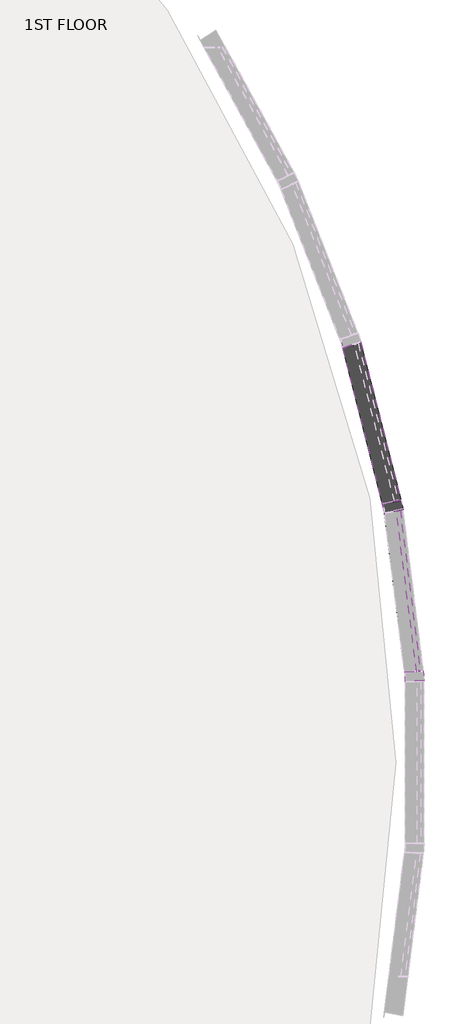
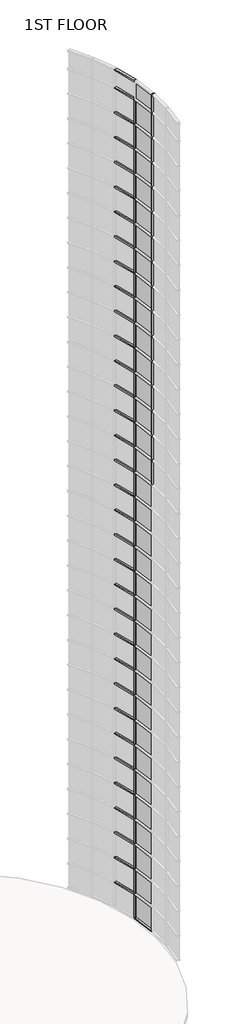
# One storey, part 16 of 17: 84 members, 34 plates.
"""IFC4 building model written with IfcOpenShell, lengths in millimetres."""

from ifc_helpers import new_model, si_unit, origin, place, context, project, spatial, transform, mapped, element, save
from components import member_56cb0dcd, member_0c249660, member_2b49869a, member_410c6227, system_panel_glazed_ce2914f7, system_panel_glazed_e049e42f, system_panel_glazed_5ae89cf9

model = new_model("IFC4")

# Units and contexts
model_context = context("Model", 3, world=origin())
ifc_project = project(units=[si_unit("LENGTHUNIT", "METRE", prefix="MILLI")], contexts=[model_context])

# Site, building, storey
site = spatial("IfcSite", under=ifc_project)
building = spatial("IfcBuilding", under=site)
storey = spatial("IfcBuildingStorey", under=building, Name="1ST FLOOR", Elevation=4572.0)

# Members
placement = place(None, origin())
member_shape = member_56cb0dcd(model_context)
element("IfcMember", 1, ObjectType="Rectangular Mullion : 2.5\" x 5\" rectangular", at=placement, inside=storey, context=model_context, shape_type="MappedRepresentation", body=[
    mapped(member_shape, transform((48103.1256282, 18683.2818022, 45720.0), x_axis=(0.0, 0.0, 1.0), y_axis=(-0.9689314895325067, -0.24732927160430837, 0.0), z_axis=(0.24732927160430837, -0.9689314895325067, 0.0))),
])
element("IfcMember", 2, ObjectType="Rectangular Mullion : 2.5\" x 5\" rectangular", at=placement, inside=storey, context=model_context, shape_type="MappedRepresentation", body=[
    mapped(member_shape, transform((48114.9355412, 18621.0157989, 4572.0), x_axis=(0.0, 0.0, -1.0), y_axis=(-0.9922024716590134, -0.1246364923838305, 0.0), z_axis=(-0.1246364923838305, 0.9922024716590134, 0.0))),
])
member_2_shape = member_0c249660(model_context)
element("IfcMember", 3, ObjectType="Rectangular Mullion : 2.5\" x 5\" rectangular", at=placement, inside=storey, context=model_context, shape_type="MappedRepresentation", body=[
    mapped(member_2_shape, transform((48103.1256282, 18683.2818022, 5791.2), x_axis=(0.0, 0.0, 1.0), y_axis=(-0.9689314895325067, -0.24732927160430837, 0.0), z_axis=(0.24732927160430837, -0.9689314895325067, 0.0))),
])
element("IfcMember", 4, ObjectType="Rectangular Mullion : 2.5\" x 5\" rectangular", at=placement, inside=storey, context=model_context, shape_type="MappedRepresentation", body=[
    mapped(member_2_shape, transform((48103.1256282, 18683.2818022, 7010.4), x_axis=(0.0, 0.0, 1.0), y_axis=(-0.9689314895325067, -0.24732927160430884, 0.0), z_axis=(0.24732927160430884, -0.9689314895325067, 0.0))),
])
element("IfcMember", 5, ObjectType="Rectangular Mullion : 2.5\" x 5\" rectangular", at=placement, inside=storey, context=model_context, shape_type="MappedRepresentation", body=[
    mapped(member_2_shape, transform((48103.1256282, 18683.2818022, 8229.6), x_axis=(0.0, 0.0, 1.0), y_axis=(-0.9689314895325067, -0.24732927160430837, 0.0), z_axis=(0.24732927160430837, -0.9689314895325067, 0.0))),
])
element("IfcMember", 6, ObjectType="Rectangular Mullion : 2.5\" x 5\" rectangular", at=placement, inside=storey, context=model_context, shape_type="MappedRepresentation", body=[
    mapped(member_2_shape, transform((48103.1256282, 18683.2818022, 9448.8), x_axis=(0.0, 0.0, 1.0), y_axis=(-0.9689314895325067, -0.24732927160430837, 0.0), z_axis=(0.24732927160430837, -0.9689314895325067, 0.0))),
])
element("IfcMember", 7, ObjectType="Rectangular Mullion : 2.5\" x 5\" rectangular", at=placement, inside=storey, context=model_context, shape_type="MappedRepresentation", body=[
    mapped(member_2_shape, transform((48103.1256282, 18683.2818022, 10668.0), x_axis=(0.0, 0.0, 1.0), y_axis=(-0.9689314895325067, -0.24732927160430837, 0.0), z_axis=(0.24732927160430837, -0.9689314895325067, 0.0))),
])
element("IfcMember", 8, ObjectType="Rectangular Mullion : 2.5\" x 5\" rectangular", at=placement, inside=storey, context=model_context, shape_type="MappedRepresentation", body=[
    mapped(member_2_shape, transform((48103.1256282, 18683.2818022, 11887.2), x_axis=(0.0, 0.0, 1.0), y_axis=(-0.9689314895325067, -0.24732927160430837, 0.0), z_axis=(0.24732927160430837, -0.9689314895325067, 0.0))),
])
element("IfcMember", 9, ObjectType="Rectangular Mullion : 2.5\" x 5\" rectangular", at=placement, inside=storey, context=model_context, shape_type="MappedRepresentation", body=[
    mapped(member_2_shape, transform((48103.1256282, 18683.2818022, 13106.4), x_axis=(0.0, 0.0, 1.0), y_axis=(-0.9689314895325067, -0.24732927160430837, 0.0), z_axis=(0.24732927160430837, -0.9689314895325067, 0.0))),
])
element("IfcMember", 10, ObjectType="Rectangular Mullion : 2.5\" x 5\" rectangular", at=placement, inside=storey, context=model_context, shape_type="MappedRepresentation", body=[
    mapped(member_2_shape, transform((48103.1256282, 18683.2818022, 14325.6), x_axis=(0.0, 0.0, 1.0), y_axis=(-0.9689314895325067, -0.24732927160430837, 0.0), z_axis=(0.24732927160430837, -0.9689314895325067, 0.0))),
])
element("IfcMember", 11, ObjectType="Rectangular Mullion : 2.5\" x 5\" rectangular", at=placement, inside=storey, context=model_context, shape_type="MappedRepresentation", body=[
    mapped(member_2_shape, transform((48103.1256282, 18683.2818022, 15544.8), x_axis=(0.0, 0.0, 1.0), y_axis=(-0.9689314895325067, -0.24732927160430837, 0.0), z_axis=(0.24732927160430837, -0.9689314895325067, 0.0))),
])
element("IfcMember", 12, ObjectType="Rectangular Mullion : 2.5\" x 5\" rectangular", at=placement, inside=storey, context=model_context, shape_type="MappedRepresentation", body=[
    mapped(member_2_shape, transform((48103.1256282, 18683.2818022, 16764.0), x_axis=(0.0, 0.0, 1.0), y_axis=(-0.9689314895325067, -0.24732927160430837, 0.0), z_axis=(0.24732927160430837, -0.9689314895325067, 0.0))),
])
element("IfcMember", 13, ObjectType="Rectangular Mullion : 2.5\" x 5\" rectangular", at=placement, inside=storey, context=model_context, shape_type="MappedRepresentation", body=[
    mapped(member_2_shape, transform((48103.1256282, 18683.2818022, 17983.2), x_axis=(0.0, 0.0, 1.0), y_axis=(-0.9689314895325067, -0.24732927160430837, 0.0), z_axis=(0.24732927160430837, -0.9689314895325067, 0.0))),
])
element("IfcMember", 14, ObjectType="Rectangular Mullion : 2.5\" x 5\" rectangular", at=placement, inside=storey, context=model_context, shape_type="MappedRepresentation", body=[
    mapped(member_2_shape, transform((48103.1256282, 18683.2818022, 19202.4), x_axis=(0.0, 0.0, 1.0), y_axis=(-0.9689314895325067, -0.24732927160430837, 0.0), z_axis=(0.24732927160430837, -0.9689314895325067, 0.0))),
])
element("IfcMember", 15, ObjectType="Rectangular Mullion : 2.5\" x 5\" rectangular", at=placement, inside=storey, context=model_context, shape_type="MappedRepresentation", body=[
    mapped(member_2_shape, transform((48103.1256282, 18683.2818022, 20421.6), x_axis=(0.0, 0.0, 1.0), y_axis=(-0.9689314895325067, -0.24732927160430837, 0.0), z_axis=(0.24732927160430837, -0.9689314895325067, 0.0))),
])
element("IfcMember", 16, ObjectType="Rectangular Mullion : 2.5\" x 5\" rectangular", at=placement, inside=storey, context=model_context, shape_type="MappedRepresentation", body=[
    mapped(member_2_shape, transform((48103.1256282, 18683.2818022, 21640.8), x_axis=(0.0, 0.0, 1.0), y_axis=(-0.9689314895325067, -0.24732927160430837, 0.0), z_axis=(0.24732927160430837, -0.9689314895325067, 0.0))),
])
element("IfcMember", 17, ObjectType="Rectangular Mullion : 2.5\" x 5\" rectangular", at=placement, inside=storey, context=model_context, shape_type="MappedRepresentation", body=[
    mapped(member_2_shape, transform((48103.1256282, 18683.2818022, 22860.0), x_axis=(0.0, 0.0, 1.0), y_axis=(-0.9689314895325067, -0.24732927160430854, 0.0), z_axis=(0.24732927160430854, -0.9689314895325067, 0.0))),
])
element("IfcMember", 18, ObjectType="Rectangular Mullion : 2.5\" x 5\" rectangular", at=placement, inside=storey, context=model_context, shape_type="MappedRepresentation", body=[
    mapped(member_2_shape, transform((48103.1256282, 18683.2818022, 24079.2), x_axis=(0.0, 0.0, 1.0), y_axis=(-0.9689314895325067, -0.24732927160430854, 0.0), z_axis=(0.24732927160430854, -0.9689314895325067, 0.0))),
])
element("IfcMember", 19, ObjectType="Rectangular Mullion : 2.5\" x 5\" rectangular", at=placement, inside=storey, context=model_context, shape_type="MappedRepresentation", body=[
    mapped(member_2_shape, transform((48103.1256282, 18683.2818022, 25298.4), x_axis=(0.0, 0.0, 1.0), y_axis=(-0.9689314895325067, -0.24732927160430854, 0.0), z_axis=(0.24732927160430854, -0.9689314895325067, 0.0))),
])
element("IfcMember", 20, ObjectType="Rectangular Mullion : 2.5\" x 5\" rectangular", at=placement, inside=storey, context=model_context, shape_type="MappedRepresentation", body=[
    mapped(member_2_shape, transform((48103.1256282, 18683.2818022, 26517.6), x_axis=(0.0, 0.0, 1.0), y_axis=(-0.9689314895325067, -0.24732927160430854, 0.0), z_axis=(0.24732927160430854, -0.9689314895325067, 0.0))),
])
element("IfcMember", 21, ObjectType="Rectangular Mullion : 2.5\" x 5\" rectangular", at=placement, inside=storey, context=model_context, shape_type="MappedRepresentation", body=[
    mapped(member_2_shape, transform((48103.1256282, 18683.2818022, 27736.8), x_axis=(0.0, 0.0, 1.0), y_axis=(-0.9689314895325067, -0.24732927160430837, 0.0), z_axis=(0.24732927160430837, -0.9689314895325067, 0.0))),
])
element("IfcMember", 22, ObjectType="Rectangular Mullion : 2.5\" x 5\" rectangular", at=placement, inside=storey, context=model_context, shape_type="MappedRepresentation", body=[
    mapped(member_2_shape, transform((48103.1256282, 18683.2818022, 28956.0), x_axis=(0.0, 0.0, 1.0), y_axis=(-0.9689314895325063, -0.24732927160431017, 0.0), z_axis=(0.24732927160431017, -0.9689314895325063, 0.0))),
])
element("IfcMember", 23, ObjectType="Rectangular Mullion : 2.5\" x 5\" rectangular", at=placement, inside=storey, context=model_context, shape_type="MappedRepresentation", body=[
    mapped(member_2_shape, transform((48103.1256282, 18683.2818022, 30175.2), x_axis=(0.0, 0.0, 1.0), y_axis=(-0.9689314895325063, -0.24732927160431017, 0.0), z_axis=(0.24732927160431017, -0.9689314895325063, 0.0))),
])
element("IfcMember", 24, ObjectType="Rectangular Mullion : 2.5\" x 5\" rectangular", at=placement, inside=storey, context=model_context, shape_type="MappedRepresentation", body=[
    mapped(member_2_shape, transform((48103.1256282, 18683.2818022, 31394.4), x_axis=(0.0, 0.0, 1.0), y_axis=(-0.9689314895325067, -0.24732927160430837, 0.0), z_axis=(0.24732927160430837, -0.9689314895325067, 0.0))),
])
element("IfcMember", 25, ObjectType="Rectangular Mullion : 2.5\" x 5\" rectangular", at=placement, inside=storey, context=model_context, shape_type="MappedRepresentation", body=[
    mapped(member_2_shape, transform((48103.1256282, 18683.2818022, 32613.6), x_axis=(0.0, 0.0, 1.0), y_axis=(-0.9689314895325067, -0.24732927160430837, 0.0), z_axis=(0.24732927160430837, -0.9689314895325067, 0.0))),
])
element("IfcMember", 26, ObjectType="Rectangular Mullion : 2.5\" x 5\" rectangular", at=placement, inside=storey, context=model_context, shape_type="MappedRepresentation", body=[
    mapped(member_2_shape, transform((48103.1256282, 18683.2818022, 33832.8), x_axis=(0.0, 0.0, 1.0), y_axis=(-0.9689314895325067, -0.24732927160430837, 0.0), z_axis=(0.24732927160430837, -0.9689314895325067, 0.0))),
])
element("IfcMember", 27, ObjectType="Rectangular Mullion : 2.5\" x 5\" rectangular", at=placement, inside=storey, context=model_context, shape_type="MappedRepresentation", body=[
    mapped(member_2_shape, transform((48103.1256282, 18683.2818022, 35052.0), x_axis=(0.0, 0.0, 1.0), y_axis=(-0.9689314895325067, -0.24732927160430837, 0.0), z_axis=(0.24732927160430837, -0.9689314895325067, 0.0))),
])
element("IfcMember", 28, ObjectType="Rectangular Mullion : 2.5\" x 5\" rectangular", at=placement, inside=storey, context=model_context, shape_type="MappedRepresentation", body=[
    mapped(member_2_shape, transform((48103.1256282, 18683.2818022, 36271.2), x_axis=(0.0, 0.0, 1.0), y_axis=(-0.9689314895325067, -0.24732927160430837, 0.0), z_axis=(0.24732927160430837, -0.9689314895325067, 0.0))),
])
element("IfcMember", 29, ObjectType="Rectangular Mullion : 2.5\" x 5\" rectangular", at=placement, inside=storey, context=model_context, shape_type="MappedRepresentation", body=[
    mapped(member_2_shape, transform((48103.1256282, 18683.2818022, 37490.4), x_axis=(0.0, 0.0, 1.0), y_axis=(-0.9689314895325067, -0.24732927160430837, 0.0), z_axis=(0.24732927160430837, -0.9689314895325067, 0.0))),
])
element("IfcMember", 30, ObjectType="Rectangular Mullion : 2.5\" x 5\" rectangular", at=placement, inside=storey, context=model_context, shape_type="MappedRepresentation", body=[
    mapped(member_2_shape, transform((48103.1256282, 18683.2818022, 38709.6), x_axis=(0.0, 0.0, 1.0), y_axis=(-0.9689314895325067, -0.24732927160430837, 0.0), z_axis=(0.24732927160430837, -0.9689314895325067, 0.0))),
])
element("IfcMember", 31, ObjectType="Rectangular Mullion : 2.5\" x 5\" rectangular", at=placement, inside=storey, context=model_context, shape_type="MappedRepresentation", body=[
    mapped(member_2_shape, transform((48103.1256282, 18683.2818022, 39928.8), x_axis=(0.0, 0.0, 1.0), y_axis=(-0.9689314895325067, -0.24732927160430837, 0.0), z_axis=(0.24732927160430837, -0.9689314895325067, 0.0))),
])
element("IfcMember", 32, ObjectType="Rectangular Mullion : 2.5\" x 5\" rectangular", at=placement, inside=storey, context=model_context, shape_type="MappedRepresentation", body=[
    mapped(member_2_shape, transform((48103.1256282, 18683.2818022, 41148.0), x_axis=(0.0, 0.0, 1.0), y_axis=(-0.9689314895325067, -0.24732927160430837, 0.0), z_axis=(0.24732927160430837, -0.9689314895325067, 0.0))),
])
element("IfcMember", 33, ObjectType="Rectangular Mullion : 2.5\" x 5\" rectangular", at=placement, inside=storey, context=model_context, shape_type="MappedRepresentation", body=[
    mapped(member_2_shape, transform((48103.1256282, 18683.2818022, 42367.2), x_axis=(0.0, 0.0, 1.0), y_axis=(-0.9689314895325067, -0.24732927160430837, 0.0), z_axis=(0.24732927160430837, -0.9689314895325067, 0.0))),
])
element("IfcMember", 34, ObjectType="Rectangular Mullion : 2.5\" x 5\" rectangular", at=placement, inside=storey, context=model_context, shape_type="MappedRepresentation", body=[
    mapped(member_2_shape, transform((48103.1256282, 18683.2818022, 43586.4), x_axis=(0.0, 0.0, 1.0), y_axis=(-0.9689314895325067, -0.24732927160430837, 0.0), z_axis=(0.24732927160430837, -0.9689314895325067, 0.0))),
])
element("IfcMember", 35, ObjectType="Rectangular Mullion : 2.5\" x 5\" rectangular", at=placement, inside=storey, context=model_context, shape_type="MappedRepresentation", body=[
    mapped(member_2_shape, transform((48103.1256282, 18683.2818022, 44805.6), x_axis=(0.0, 0.0, 1.0), y_axis=(-0.9689314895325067, -0.24732927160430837, 0.0), z_axis=(0.24732927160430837, -0.9689314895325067, 0.0))),
])
member_3_shape = member_2b49869a(model_context)
element("IfcMember", 36, ObjectType="Rectangular Mullion : 2.5\" x 5\" rectangular", at=placement, inside=storey, context=model_context, shape_type="MappedRepresentation", body=[
    mapped(member_3_shape, transform((48110.9783326, 18652.5182274, 4572.0), x_axis=(0.18634649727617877, -0.98248408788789, 0.0), y_axis=(-0.98248408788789, -0.18634649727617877, 0.0), z_axis=(0.0, 0.0, -1.0))),
])
element("IfcMember", 37, ObjectType="Rectangular Mullion : 2.5\" x 5\" rectangular", at=placement, inside=storey, context=model_context, shape_type="MappedRepresentation", body=[
    mapped(member_3_shape, transform((48110.9783326, 18652.5182274, 5791.2), x_axis=(0.18634649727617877, -0.98248408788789, 0.0), y_axis=(-0.98248408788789, -0.18634649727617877, 0.0), z_axis=(0.0, 0.0, -1.0))),
])
element("IfcMember", 38, ObjectType="Rectangular Mullion : 2.5\" x 5\" rectangular", at=placement, inside=storey, context=model_context, shape_type="MappedRepresentation", body=[
    mapped(member_3_shape, transform((48110.9783326, 18652.5182274, 7010.4), x_axis=(0.18634649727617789, -0.9824840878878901, 0.0), y_axis=(-0.9824840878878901, -0.18634649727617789, 0.0), z_axis=(0.0, 0.0, -1.0))),
])
element("IfcMember", 39, ObjectType="Rectangular Mullion : 2.5\" x 5\" rectangular", at=placement, inside=storey, context=model_context, shape_type="MappedRepresentation", body=[
    mapped(member_3_shape, transform((48110.9783326, 18652.5182274, 8229.6), x_axis=(0.18634649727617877, -0.98248408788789, 0.0), y_axis=(-0.98248408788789, -0.18634649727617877, 0.0), z_axis=(0.0, 0.0, -1.0))),
])
element("IfcMember", 40, ObjectType="Rectangular Mullion : 2.5\" x 5\" rectangular", at=placement, inside=storey, context=model_context, shape_type="MappedRepresentation", body=[
    mapped(member_3_shape, transform((48110.9783326, 18652.5182274, 9448.8), x_axis=(0.18634649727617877, -0.98248408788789, 0.0), y_axis=(-0.98248408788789, -0.18634649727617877, 0.0), z_axis=(0.0, 0.0, -1.0))),
])
element("IfcMember", 41, ObjectType="Rectangular Mullion : 2.5\" x 5\" rectangular", at=placement, inside=storey, context=model_context, shape_type="MappedRepresentation", body=[
    mapped(member_3_shape, transform((48110.9783326, 18652.5182274, 10668.0), x_axis=(0.18634649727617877, -0.98248408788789, 0.0), y_axis=(-0.98248408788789, -0.18634649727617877, 0.0), z_axis=(0.0, 0.0, -1.0))),
])
element("IfcMember", 42, ObjectType="Rectangular Mullion : 2.5\" x 5\" rectangular", at=placement, inside=storey, context=model_context, shape_type="MappedRepresentation", body=[
    mapped(member_3_shape, transform((48110.9783326, 18652.5182274, 11887.2), x_axis=(0.18634649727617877, -0.98248408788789, 0.0), y_axis=(-0.98248408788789, -0.18634649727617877, 0.0), z_axis=(0.0, 0.0, -1.0))),
])
element("IfcMember", 43, ObjectType="Rectangular Mullion : 2.5\" x 5\" rectangular", at=placement, inside=storey, context=model_context, shape_type="MappedRepresentation", body=[
    mapped(member_3_shape, transform((48110.9783326, 18652.5182274, 13106.4), x_axis=(0.18634649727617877, -0.98248408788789, 0.0), y_axis=(-0.98248408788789, -0.18634649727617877, 0.0), z_axis=(0.0, 0.0, -1.0))),
])
element("IfcMember", 44, ObjectType="Rectangular Mullion : 2.5\" x 5\" rectangular", at=placement, inside=storey, context=model_context, shape_type="MappedRepresentation", body=[
    mapped(member_3_shape, transform((48110.9783326, 18652.5182274, 14325.6), x_axis=(0.18634649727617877, -0.98248408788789, 0.0), y_axis=(-0.98248408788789, -0.18634649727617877, 0.0), z_axis=(0.0, 0.0, -1.0))),
])
element("IfcMember", 45, ObjectType="Rectangular Mullion : 2.5\" x 5\" rectangular", at=placement, inside=storey, context=model_context, shape_type="MappedRepresentation", body=[
    mapped(member_3_shape, transform((48110.9783326, 18652.5182274, 15544.8), x_axis=(0.18634649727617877, -0.98248408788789, 0.0), y_axis=(-0.98248408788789, -0.18634649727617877, 0.0), z_axis=(0.0, 0.0, -1.0))),
])
element("IfcMember", 46, ObjectType="Rectangular Mullion : 2.5\" x 5\" rectangular", at=placement, inside=storey, context=model_context, shape_type="MappedRepresentation", body=[
    mapped(member_3_shape, transform((48110.9783326, 18652.5182274, 16764.0), x_axis=(0.18634649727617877, -0.98248408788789, 0.0), y_axis=(-0.98248408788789, -0.18634649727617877, 0.0), z_axis=(0.0, 0.0, -1.0))),
])
element("IfcMember", 47, ObjectType="Rectangular Mullion : 2.5\" x 5\" rectangular", at=placement, inside=storey, context=model_context, shape_type="MappedRepresentation", body=[
    mapped(member_3_shape, transform((48110.9783326, 18652.5182274, 17983.2), x_axis=(0.18634649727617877, -0.98248408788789, 0.0), y_axis=(-0.98248408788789, -0.18634649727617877, 0.0), z_axis=(0.0, 0.0, -1.0))),
])
element("IfcMember", 48, ObjectType="Rectangular Mullion : 2.5\" x 5\" rectangular", at=placement, inside=storey, context=model_context, shape_type="MappedRepresentation", body=[
    mapped(member_3_shape, transform((48110.9783326, 18652.5182274, 19202.4), x_axis=(0.18634649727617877, -0.98248408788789, 0.0), y_axis=(-0.98248408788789, -0.18634649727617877, 0.0), z_axis=(0.0, 0.0, -1.0))),
])
element("IfcMember", 49, ObjectType="Rectangular Mullion : 2.5\" x 5\" rectangular", at=placement, inside=storey, context=model_context, shape_type="MappedRepresentation", body=[
    mapped(member_3_shape, transform((48110.9783326, 18652.5182274, 20421.6), x_axis=(0.18634649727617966, -0.9824840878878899, 0.0), y_axis=(-0.9824840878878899, -0.18634649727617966, 0.0), z_axis=(0.0, 0.0, -1.0))),
])
element("IfcMember", 50, ObjectType="Rectangular Mullion : 2.5\" x 5\" rectangular", at=placement, inside=storey, context=model_context, shape_type="MappedRepresentation", body=[
    mapped(member_3_shape, transform((48110.9783326, 18652.5182274, 21640.8), x_axis=(0.18634649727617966, -0.9824840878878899, 0.0), y_axis=(-0.9824840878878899, -0.18634649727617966, 0.0), z_axis=(0.0, 0.0, -1.0))),
])
element("IfcMember", 51, ObjectType="Rectangular Mullion : 2.5\" x 5\" rectangular", at=placement, inside=storey, context=model_context, shape_type="MappedRepresentation", body=[
    mapped(member_3_shape, transform((48110.9783326, 18652.5182274, 22860.0), x_axis=(0.18634649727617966, -0.9824840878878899, 0.0), y_axis=(-0.9824840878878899, -0.18634649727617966, 0.0), z_axis=(0.0, 0.0, -1.0))),
])
element("IfcMember", 52, ObjectType="Rectangular Mullion : 2.5\" x 5\" rectangular", at=placement, inside=storey, context=model_context, shape_type="MappedRepresentation", body=[
    mapped(member_3_shape, transform((48110.9783326, 18652.5182274, 24079.2), x_axis=(0.18634649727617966, -0.9824840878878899, 0.0), y_axis=(-0.9824840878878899, -0.18634649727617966, 0.0), z_axis=(0.0, 0.0, -1.0))),
])
element("IfcMember", 53, ObjectType="Rectangular Mullion : 2.5\" x 5\" rectangular", at=placement, inside=storey, context=model_context, shape_type="MappedRepresentation", body=[
    mapped(member_3_shape, transform((48110.9783326, 18652.5182274, 25298.4), x_axis=(0.18634649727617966, -0.9824840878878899, 0.0), y_axis=(-0.9824840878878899, -0.18634649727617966, 0.0), z_axis=(0.0, 0.0, -1.0))),
])
element("IfcMember", 54, ObjectType="Rectangular Mullion : 2.5\" x 5\" rectangular", at=placement, inside=storey, context=model_context, shape_type="MappedRepresentation", body=[
    mapped(member_3_shape, transform((48110.9783326, 18652.5182274, 26517.6), x_axis=(0.1863464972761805, -0.9824840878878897, 0.0), y_axis=(-0.9824840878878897, -0.1863464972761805, 0.0), z_axis=(0.0, 0.0, -1.0))),
])
element("IfcMember", 55, ObjectType="Rectangular Mullion : 2.5\" x 5\" rectangular", at=placement, inside=storey, context=model_context, shape_type="MappedRepresentation", body=[
    mapped(member_3_shape, transform((48255.7227419, 17500.2412502, 26517.6), x_axis=(0.06244008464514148, -0.9980487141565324, 0.0), y_axis=(-0.9980487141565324, -0.06244008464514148, 0.0), z_axis=(0.0, 0.0, -1.0))),
])
element("IfcMember", 56, ObjectType="Rectangular Mullion : 2.5\" x 5\" rectangular", at=placement, inside=storey, context=model_context, shape_type="MappedRepresentation", body=[
    mapped(member_3_shape, transform((48110.9783326, 18652.5182274, 27736.8), x_axis=(0.18634649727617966, -0.9824840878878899, 0.0), y_axis=(-0.9824840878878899, -0.18634649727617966, 0.0), z_axis=(0.0, 0.0, -1.0))),
])
element("IfcMember", 57, ObjectType="Rectangular Mullion : 2.5\" x 5\" rectangular", at=placement, inside=storey, context=model_context, shape_type="MappedRepresentation", body=[
    mapped(member_3_shape, transform((48255.7227419, 17500.2412502, 27736.8), x_axis=(0.06244008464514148, -0.9980487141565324, 0.0), y_axis=(-0.9980487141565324, -0.06244008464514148, 0.0), z_axis=(0.0, 0.0, -1.0))),
])
element("IfcMember", 58, ObjectType="Rectangular Mullion : 2.5\" x 5\" rectangular", at=placement, inside=storey, context=model_context, shape_type="MappedRepresentation", body=[
    mapped(member_3_shape, transform((48110.9783326, 18652.5182274, 28956.0), x_axis=(0.18634649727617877, -0.98248408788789, 0.0), y_axis=(-0.98248408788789, -0.18634649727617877, 0.0), z_axis=(0.0, 0.0, -1.0))),
])
element("IfcMember", 59, ObjectType="Rectangular Mullion : 2.5\" x 5\" rectangular", at=placement, inside=storey, context=model_context, shape_type="MappedRepresentation", body=[
    mapped(member_3_shape, transform((48255.7227419, 17500.2412502, 28956.0), x_axis=(0.062440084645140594, -0.9980487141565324, 0.0), y_axis=(-0.9980487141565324, -0.062440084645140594, 0.0), z_axis=(0.0, 0.0, -1.0))),
])
element("IfcMember", 60, ObjectType="Rectangular Mullion : 2.5\" x 5\" rectangular", at=placement, inside=storey, context=model_context, shape_type="MappedRepresentation", body=[
    mapped(member_3_shape, transform((48110.9783326, 18652.5182274, 30175.2), x_axis=(0.18634649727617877, -0.98248408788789, 0.0), y_axis=(-0.98248408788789, -0.18634649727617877, 0.0), z_axis=(0.0, 0.0, -1.0))),
])
element("IfcMember", 61, ObjectType="Rectangular Mullion : 2.5\" x 5\" rectangular", at=placement, inside=storey, context=model_context, shape_type="MappedRepresentation", body=[
    mapped(member_3_shape, transform((48255.7227419, 17500.2412502, 30175.2), x_axis=(0.06244008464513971, -0.9980487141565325, 0.0), y_axis=(-0.9980487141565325, -0.06244008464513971, 0.0), z_axis=(0.0, 0.0, -1.0))),
])
element("IfcMember", 62, ObjectType="Rectangular Mullion : 2.5\" x 5\" rectangular", at=placement, inside=storey, context=model_context, shape_type="MappedRepresentation", body=[
    mapped(member_3_shape, transform((48110.9783326, 18652.5182274, 31394.4), x_axis=(0.18634649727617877, -0.98248408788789, 0.0), y_axis=(-0.98248408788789, -0.18634649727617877, 0.0), z_axis=(0.0, 0.0, -1.0))),
])
element("IfcMember", 63, ObjectType="Rectangular Mullion : 2.5\" x 5\" rectangular", at=placement, inside=storey, context=model_context, shape_type="MappedRepresentation", body=[
    mapped(member_3_shape, transform((48255.7227419, 17500.2412502, 31394.4), x_axis=(0.06244008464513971, -0.9980487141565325, 0.0), y_axis=(-0.9980487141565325, -0.06244008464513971, 0.0), z_axis=(0.0, 0.0, -1.0))),
])
element("IfcMember", 64, ObjectType="Rectangular Mullion : 2.5\" x 5\" rectangular", at=placement, inside=storey, context=model_context, shape_type="MappedRepresentation", body=[
    mapped(member_3_shape, transform((48110.9783326, 18652.5182274, 32613.6), x_axis=(0.18634649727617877, -0.98248408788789, 0.0), y_axis=(-0.98248408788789, -0.18634649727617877, 0.0), z_axis=(0.0, 0.0, -1.0))),
])
element("IfcMember", 65, ObjectType="Rectangular Mullion : 2.5\" x 5\" rectangular", at=placement, inside=storey, context=model_context, shape_type="MappedRepresentation", body=[
    mapped(member_3_shape, transform((48255.7227419, 17500.2412502, 32613.6), x_axis=(0.06244008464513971, -0.9980487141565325, 0.0), y_axis=(-0.9980487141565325, -0.06244008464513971, 0.0), z_axis=(0.0, 0.0, -1.0))),
])
element("IfcMember", 66, ObjectType="Rectangular Mullion : 2.5\" x 5\" rectangular", at=placement, inside=storey, context=model_context, shape_type="MappedRepresentation", body=[
    mapped(member_3_shape, transform((48110.9783326, 18652.5182274, 33832.8), x_axis=(0.18634649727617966, -0.9824840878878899, 0.0), y_axis=(-0.9824840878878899, -0.18634649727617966, 0.0), z_axis=(0.0, 0.0, -1.0))),
])
element("IfcMember", 67, ObjectType="Rectangular Mullion : 2.5\" x 5\" rectangular", at=placement, inside=storey, context=model_context, shape_type="MappedRepresentation", body=[
    mapped(member_3_shape, transform((48255.7227419, 17500.2412502, 33832.8), x_axis=(0.062440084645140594, -0.9980487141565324, 0.0), y_axis=(-0.9980487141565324, -0.062440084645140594, 0.0), z_axis=(0.0, 0.0, -1.0))),
])
element("IfcMember", 68, ObjectType="Rectangular Mullion : 2.5\" x 5\" rectangular", at=placement, inside=storey, context=model_context, shape_type="MappedRepresentation", body=[
    mapped(member_3_shape, transform((48110.9783326, 18652.5182274, 35052.0), x_axis=(0.18634649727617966, -0.9824840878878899, 0.0), y_axis=(-0.9824840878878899, -0.18634649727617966, 0.0), z_axis=(0.0, 0.0, -1.0))),
])
element("IfcMember", 69, ObjectType="Rectangular Mullion : 2.5\" x 5\" rectangular", at=placement, inside=storey, context=model_context, shape_type="MappedRepresentation", body=[
    mapped(member_3_shape, transform((48255.7227419, 17500.2412502, 35052.0), x_axis=(0.062440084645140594, -0.9980487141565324, 0.0), y_axis=(-0.9980487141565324, -0.062440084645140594, 0.0), z_axis=(0.0, 0.0, -1.0))),
])
element("IfcMember", 70, ObjectType="Rectangular Mullion : 2.5\" x 5\" rectangular", at=placement, inside=storey, context=model_context, shape_type="MappedRepresentation", body=[
    mapped(member_3_shape, transform((48110.9783326, 18652.5182274, 36271.2), x_axis=(0.18634649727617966, -0.9824840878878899, 0.0), y_axis=(-0.9824840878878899, -0.18634649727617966, 0.0), z_axis=(0.0, 0.0, -1.0))),
])
element("IfcMember", 71, ObjectType="Rectangular Mullion : 2.5\" x 5\" rectangular", at=placement, inside=storey, context=model_context, shape_type="MappedRepresentation", body=[
    mapped(member_3_shape, transform((48255.7227419, 17500.2412502, 36271.2), x_axis=(0.062440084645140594, -0.9980487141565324, 0.0), y_axis=(-0.9980487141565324, -0.062440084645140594, 0.0), z_axis=(0.0, 0.0, -1.0))),
])
element("IfcMember", 72, ObjectType="Rectangular Mullion : 2.5\" x 5\" rectangular", at=placement, inside=storey, context=model_context, shape_type="MappedRepresentation", body=[
    mapped(member_3_shape, transform((48110.9783326, 18652.5182274, 37490.4), x_axis=(0.18634649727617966, -0.9824840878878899, 0.0), y_axis=(-0.9824840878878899, -0.18634649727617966, 0.0), z_axis=(0.0, 0.0, -1.0))),
])
element("IfcMember", 73, ObjectType="Rectangular Mullion : 2.5\" x 5\" rectangular", at=placement, inside=storey, context=model_context, shape_type="MappedRepresentation", body=[
    mapped(member_3_shape, transform((48255.7227419, 17500.2412502, 37490.4), x_axis=(0.062440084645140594, -0.9980487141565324, 0.0), y_axis=(-0.9980487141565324, -0.062440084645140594, 0.0), z_axis=(0.0, 0.0, -1.0))),
])
element("IfcMember", 74, ObjectType="Rectangular Mullion : 2.5\" x 5\" rectangular", at=placement, inside=storey, context=model_context, shape_type="MappedRepresentation", body=[
    mapped(member_3_shape, transform((48110.9783326, 18652.5182274, 38709.6), x_axis=(0.18634649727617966, -0.9824840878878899, 0.0), y_axis=(-0.9824840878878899, -0.18634649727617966, 0.0), z_axis=(0.0, 0.0, -1.0))),
])
element("IfcMember", 75, ObjectType="Rectangular Mullion : 2.5\" x 5\" rectangular", at=placement, inside=storey, context=model_context, shape_type="MappedRepresentation", body=[
    mapped(member_3_shape, transform((48255.7227419, 17500.2412502, 38709.6), x_axis=(0.06244008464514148, -0.9980487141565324, 0.0), y_axis=(-0.9980487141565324, -0.06244008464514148, 0.0), z_axis=(0.0, 0.0, -1.0))),
])
element("IfcMember", 76, ObjectType="Rectangular Mullion : 2.5\" x 5\" rectangular", at=placement, inside=storey, context=model_context, shape_type="MappedRepresentation", body=[
    mapped(member_3_shape, transform((48110.9783326, 18652.5182274, 39928.8), x_axis=(0.18634649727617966, -0.9824840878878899, 0.0), y_axis=(-0.9824840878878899, -0.18634649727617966, 0.0), z_axis=(0.0, 0.0, -1.0))),
])
element("IfcMember", 77, ObjectType="Rectangular Mullion : 2.5\" x 5\" rectangular", at=placement, inside=storey, context=model_context, shape_type="MappedRepresentation", body=[
    mapped(member_3_shape, transform((48255.7227419, 17500.2412502, 39928.8), x_axis=(0.06244008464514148, -0.9980487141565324, 0.0), y_axis=(-0.9980487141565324, -0.06244008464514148, 0.0), z_axis=(0.0, 0.0, -1.0))),
])
element("IfcMember", 78, ObjectType="Rectangular Mullion : 2.5\" x 5\" rectangular", at=placement, inside=storey, context=model_context, shape_type="MappedRepresentation", body=[
    mapped(member_3_shape, transform((48110.9783326, 18652.5182274, 41148.0), x_axis=(0.18634649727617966, -0.9824840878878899, 0.0), y_axis=(-0.9824840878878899, -0.18634649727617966, 0.0), z_axis=(0.0, 0.0, -1.0))),
])
element("IfcMember", 79, ObjectType="Rectangular Mullion : 2.5\" x 5\" rectangular", at=placement, inside=storey, context=model_context, shape_type="MappedRepresentation", body=[
    mapped(member_3_shape, transform((48255.7227419, 17500.2412502, 41148.0), x_axis=(0.06244008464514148, -0.9980487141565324, 0.0), y_axis=(-0.9980487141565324, -0.06244008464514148, 0.0), z_axis=(0.0, 0.0, -1.0))),
])
element("IfcMember", 80, ObjectType="Rectangular Mullion : 2.5\" x 5\" rectangular", at=placement, inside=storey, context=model_context, shape_type="MappedRepresentation", body=[
    mapped(member_3_shape, transform((48110.9783326, 18652.5182274, 42367.2), x_axis=(0.18634649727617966, -0.9824840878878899, 0.0), y_axis=(-0.9824840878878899, -0.18634649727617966, 0.0), z_axis=(0.0, 0.0, -1.0))),
])
element("IfcMember", 81, ObjectType="Rectangular Mullion : 2.5\" x 5\" rectangular", at=placement, inside=storey, context=model_context, shape_type="MappedRepresentation", body=[
    mapped(member_3_shape, transform((48255.7227419, 17500.2412502, 42367.2), x_axis=(0.06244008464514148, -0.9980487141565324, 0.0), y_axis=(-0.9980487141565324, -0.06244008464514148, 0.0), z_axis=(0.0, 0.0, -1.0))),
])
element("IfcMember", 82, ObjectType="Rectangular Mullion : 2.5\" x 5\" rectangular", at=placement, inside=storey, context=model_context, shape_type="MappedRepresentation", body=[
    mapped(member_3_shape, transform((48110.9783326, 18652.5182274, 43586.4), x_axis=(0.18634649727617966, -0.9824840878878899, 0.0), y_axis=(-0.9824840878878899, -0.18634649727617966, 0.0), z_axis=(0.0, 0.0, -1.0))),
])
element("IfcMember", 83, ObjectType="Rectangular Mullion : 2.5\" x 5\" rectangular", at=placement, inside=storey, context=model_context, shape_type="MappedRepresentation", body=[
    mapped(member_3_shape, transform((48255.7227419, 17500.2412502, 43586.4), x_axis=(0.06244008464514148, -0.9980487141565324, 0.0), y_axis=(-0.9980487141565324, -0.06244008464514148, 0.0), z_axis=(0.0, 0.0, -1.0))),
])
member_4_shape = member_410c6227(model_context)
element("IfcMember", 84, ObjectType="Rectangular Mullion : 2.5\" x 5\" rectangular", at=placement, inside=storey, context=model_context, shape_type="MappedRepresentation", body=[
    mapped(member_4_shape, transform((48255.7227419, 17500.2412502, 44805.6), x_axis=(0.06244008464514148, -0.9980487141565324, 0.0), y_axis=(-0.9980487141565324, -0.06244008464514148, 0.0), z_axis=(0.0, 0.0, -1.0))),
])

# Plates
system_panel_glazed_shape = system_panel_glazed_ce2914f7(model_context)
element("IfcPlate", 85, ObjectType="System Panel : Glazed", at=placement, inside=storey, context=model_context, shape_type="MappedRepresentation", body=[
    mapped(system_panel_glazed_shape, transform((48183.3505373, 18076.3797388, 4635.5), x_axis=(0.12463649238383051, -0.9922024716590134, 0.0), y_axis=(0.9922024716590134, 0.12463649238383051, 0.0), z_axis=(0.0, 0.0, 1.0))),
])
system_panel_glazed_2_shape = system_panel_glazed_e049e42f(model_context)
element("IfcPlate", 86, ObjectType="System Panel : Glazed", at=placement, inside=storey, context=model_context, shape_type="MappedRepresentation", body=[
    mapped(system_panel_glazed_2_shape, transform((48183.3505373, 18076.3797388, 5822.95), x_axis=(0.1246364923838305, -0.9922024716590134, 0.0), y_axis=(0.9922024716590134, 0.1246364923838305, 0.0), z_axis=(0.0, 0.0, 1.0))),
])
element("IfcPlate", 87, ObjectType="System Panel : Glazed", at=placement, inside=storey, context=model_context, shape_type="MappedRepresentation", body=[
    mapped(system_panel_glazed_2_shape, transform((48183.3505373, 18076.3797388, 7042.15), x_axis=(0.1246364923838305, -0.9922024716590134, 0.0), y_axis=(0.9922024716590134, 0.1246364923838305, 0.0), z_axis=(0.0, 0.0, 1.0))),
])
element("IfcPlate", 88, ObjectType="System Panel : Glazed", at=placement, inside=storey, context=model_context, shape_type="MappedRepresentation", body=[
    mapped(system_panel_glazed_2_shape, transform((48183.3505373, 18076.3797388, 8261.35), x_axis=(0.1246364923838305, -0.9922024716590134, 0.0), y_axis=(0.9922024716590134, 0.1246364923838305, 0.0), z_axis=(0.0, 0.0, 1.0))),
])
element("IfcPlate", 89, ObjectType="System Panel : Glazed", at=placement, inside=storey, context=model_context, shape_type="MappedRepresentation", body=[
    mapped(system_panel_glazed_2_shape, transform((48183.3505373, 18076.3797388, 9480.55), x_axis=(0.1246364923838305, -0.9922024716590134, 0.0), y_axis=(0.9922024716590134, 0.1246364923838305, 0.0), z_axis=(0.0, 0.0, 1.0))),
])
element("IfcPlate", 90, ObjectType="System Panel : Glazed", at=placement, inside=storey, context=model_context, shape_type="MappedRepresentation", body=[
    mapped(system_panel_glazed_2_shape, transform((48183.3505373, 18076.3797388, 10699.75), x_axis=(0.1246364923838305, -0.9922024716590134, 0.0), y_axis=(0.9922024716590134, 0.1246364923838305, 0.0), z_axis=(0.0, 0.0, 1.0))),
])
element("IfcPlate", 91, ObjectType="System Panel : Glazed", at=placement, inside=storey, context=model_context, shape_type="MappedRepresentation", body=[
    mapped(system_panel_glazed_2_shape, transform((48183.3505373, 18076.3797388, 11918.95), x_axis=(0.1246364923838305, -0.9922024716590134, 0.0), y_axis=(0.9922024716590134, 0.1246364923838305, 0.0), z_axis=(0.0, 0.0, 1.0))),
])
element("IfcPlate", 92, ObjectType="System Panel : Glazed", at=placement, inside=storey, context=model_context, shape_type="MappedRepresentation", body=[
    mapped(system_panel_glazed_2_shape, transform((48183.3505373, 18076.3797388, 13138.15), x_axis=(0.1246364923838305, -0.9922024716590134, 0.0), y_axis=(0.9922024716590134, 0.1246364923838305, 0.0), z_axis=(0.0, 0.0, 1.0))),
])
element("IfcPlate", 93, ObjectType="System Panel : Glazed", at=placement, inside=storey, context=model_context, shape_type="MappedRepresentation", body=[
    mapped(system_panel_glazed_2_shape, transform((48183.3505373, 18076.3797388, 14357.35), x_axis=(0.1246364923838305, -0.9922024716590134, 0.0), y_axis=(0.9922024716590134, 0.1246364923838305, 0.0), z_axis=(0.0, 0.0, 1.0))),
])
element("IfcPlate", 94, ObjectType="System Panel : Glazed", at=placement, inside=storey, context=model_context, shape_type="MappedRepresentation", body=[
    mapped(system_panel_glazed_2_shape, transform((48183.3505373, 18076.3797388, 15576.55), x_axis=(0.1246364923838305, -0.9922024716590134, 0.0), y_axis=(0.9922024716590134, 0.1246364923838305, 0.0), z_axis=(0.0, 0.0, 1.0))),
])
element("IfcPlate", 95, ObjectType="System Panel : Glazed", at=placement, inside=storey, context=model_context, shape_type="MappedRepresentation", body=[
    mapped(system_panel_glazed_2_shape, transform((48183.3505373, 18076.3797388, 16795.75), x_axis=(0.1246364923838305, -0.9922024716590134, 0.0), y_axis=(0.9922024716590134, 0.1246364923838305, 0.0), z_axis=(0.0, 0.0, 1.0))),
])
element("IfcPlate", 96, ObjectType="System Panel : Glazed", at=placement, inside=storey, context=model_context, shape_type="MappedRepresentation", body=[
    mapped(system_panel_glazed_2_shape, transform((48183.3505373, 18076.3797388, 18014.95), x_axis=(0.1246364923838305, -0.9922024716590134, 0.0), y_axis=(0.9922024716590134, 0.1246364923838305, 0.0), z_axis=(0.0, 0.0, 1.0))),
])
element("IfcPlate", 97, ObjectType="System Panel : Glazed", at=placement, inside=storey, context=model_context, shape_type="MappedRepresentation", body=[
    mapped(system_panel_glazed_2_shape, transform((48183.3505373, 18076.3797388, 19234.15), x_axis=(0.1246364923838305, -0.9922024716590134, 0.0), y_axis=(0.9922024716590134, 0.1246364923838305, 0.0), z_axis=(0.0, 0.0, 1.0))),
])
element("IfcPlate", 98, ObjectType="System Panel : Glazed", at=placement, inside=storey, context=model_context, shape_type="MappedRepresentation", body=[
    mapped(system_panel_glazed_2_shape, transform((48183.3505373, 18076.3797388, 20453.35), x_axis=(0.1246364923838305, -0.9922024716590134, 0.0), y_axis=(0.9922024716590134, 0.1246364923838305, 0.0), z_axis=(0.0, 0.0, 1.0))),
])
element("IfcPlate", 99, ObjectType="System Panel : Glazed", at=placement, inside=storey, context=model_context, shape_type="MappedRepresentation", body=[
    mapped(system_panel_glazed_2_shape, transform((48183.3505373, 18076.3797388, 21672.55), x_axis=(0.1246364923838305, -0.9922024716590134, 0.0), y_axis=(0.9922024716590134, 0.1246364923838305, 0.0), z_axis=(0.0, 0.0, 1.0))),
])
element("IfcPlate", 100, ObjectType="System Panel : Glazed", at=placement, inside=storey, context=model_context, shape_type="MappedRepresentation", body=[
    mapped(system_panel_glazed_2_shape, transform((48183.3505373, 18076.3797388, 22891.75), x_axis=(0.1246364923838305, -0.9922024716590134, 0.0), y_axis=(0.9922024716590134, 0.1246364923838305, 0.0), z_axis=(0.0, 0.0, 1.0))),
])
element("IfcPlate", 101, ObjectType="System Panel : Glazed", at=placement, inside=storey, context=model_context, shape_type="MappedRepresentation", body=[
    mapped(system_panel_glazed_2_shape, transform((48183.3505373, 18076.3797388, 24110.95), x_axis=(0.1246364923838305, -0.9922024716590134, 0.0), y_axis=(0.9922024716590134, 0.1246364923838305, 0.0), z_axis=(0.0, 0.0, 1.0))),
])
element("IfcPlate", 102, ObjectType="System Panel : Glazed", at=placement, inside=storey, context=model_context, shape_type="MappedRepresentation", body=[
    mapped(system_panel_glazed_2_shape, transform((48183.3505373, 18076.3797388, 25330.15), x_axis=(0.1246364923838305, -0.9922024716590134, 0.0), y_axis=(0.9922024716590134, 0.1246364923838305, 0.0), z_axis=(0.0, 0.0, 1.0))),
])
element("IfcPlate", 103, ObjectType="System Panel : Glazed", at=placement, inside=storey, context=model_context, shape_type="MappedRepresentation", body=[
    mapped(system_panel_glazed_2_shape, transform((48183.3505373, 18076.3797388, 26549.35), x_axis=(0.1246364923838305, -0.9922024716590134, 0.0), y_axis=(0.9922024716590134, 0.1246364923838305, 0.0), z_axis=(0.0, 0.0, 1.0))),
])
element("IfcPlate", 104, ObjectType="System Panel : Glazed", at=placement, inside=storey, context=model_context, shape_type="MappedRepresentation", body=[
    mapped(system_panel_glazed_2_shape, transform((48183.3505373, 18076.3797388, 27768.55), x_axis=(0.1246364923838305, -0.9922024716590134, 0.0), y_axis=(0.9922024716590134, 0.1246364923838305, 0.0), z_axis=(0.0, 0.0, 1.0))),
])
element("IfcPlate", 105, ObjectType="System Panel : Glazed", at=placement, inside=storey, context=model_context, shape_type="MappedRepresentation", body=[
    mapped(system_panel_glazed_2_shape, transform((48183.3505373, 18076.3797388, 28987.75), x_axis=(0.1246364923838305, -0.9922024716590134, 0.0), y_axis=(0.9922024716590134, 0.1246364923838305, 0.0), z_axis=(0.0, 0.0, 1.0))),
])
element("IfcPlate", 106, ObjectType="System Panel : Glazed", at=placement, inside=storey, context=model_context, shape_type="MappedRepresentation", body=[
    mapped(system_panel_glazed_2_shape, transform((48183.3505373, 18076.3797388, 30206.95), x_axis=(0.1246364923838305, -0.9922024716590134, 0.0), y_axis=(0.9922024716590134, 0.1246364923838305, 0.0), z_axis=(0.0, 0.0, 1.0))),
])
element("IfcPlate", 107, ObjectType="System Panel : Glazed", at=placement, inside=storey, context=model_context, shape_type="MappedRepresentation", body=[
    mapped(system_panel_glazed_2_shape, transform((48183.3505373, 18076.3797388, 31426.15), x_axis=(0.1246364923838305, -0.9922024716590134, 0.0), y_axis=(0.9922024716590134, 0.1246364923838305, 0.0), z_axis=(0.0, 0.0, 1.0))),
])
element("IfcPlate", 108, ObjectType="System Panel : Glazed", at=placement, inside=storey, context=model_context, shape_type="MappedRepresentation", body=[
    mapped(system_panel_glazed_2_shape, transform((48183.3505373, 18076.3797388, 32645.35), x_axis=(0.1246364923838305, -0.9922024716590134, 0.0), y_axis=(0.9922024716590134, 0.1246364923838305, 0.0), z_axis=(0.0, 0.0, 1.0))),
])
element("IfcPlate", 109, ObjectType="System Panel : Glazed", at=placement, inside=storey, context=model_context, shape_type="MappedRepresentation", body=[
    mapped(system_panel_glazed_2_shape, transform((48183.3505373, 18076.3797388, 33864.55), x_axis=(0.1246364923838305, -0.9922024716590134, 0.0), y_axis=(0.9922024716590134, 0.1246364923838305, 0.0), z_axis=(0.0, 0.0, 1.0))),
])
element("IfcPlate", 110, ObjectType="System Panel : Glazed", at=placement, inside=storey, context=model_context, shape_type="MappedRepresentation", body=[
    mapped(system_panel_glazed_2_shape, transform((48183.3505373, 18076.3797388, 35083.75), x_axis=(0.1246364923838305, -0.9922024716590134, 0.0), y_axis=(0.9922024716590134, 0.1246364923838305, 0.0), z_axis=(0.0, 0.0, 1.0))),
])
element("IfcPlate", 111, ObjectType="System Panel : Glazed", at=placement, inside=storey, context=model_context, shape_type="MappedRepresentation", body=[
    mapped(system_panel_glazed_2_shape, transform((48183.3505373, 18076.3797388, 36302.95), x_axis=(0.1246364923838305, -0.9922024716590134, 0.0), y_axis=(0.9922024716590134, 0.1246364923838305, 0.0), z_axis=(0.0, 0.0, 1.0))),
])
element("IfcPlate", 112, ObjectType="System Panel : Glazed", at=placement, inside=storey, context=model_context, shape_type="MappedRepresentation", body=[
    mapped(system_panel_glazed_2_shape, transform((48183.3505373, 18076.3797388, 37522.15), x_axis=(0.1246364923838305, -0.9922024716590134, 0.0), y_axis=(0.9922024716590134, 0.1246364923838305, 0.0), z_axis=(0.0, 0.0, 1.0))),
])
element("IfcPlate", 113, ObjectType="System Panel : Glazed", at=placement, inside=storey, context=model_context, shape_type="MappedRepresentation", body=[
    mapped(system_panel_glazed_2_shape, transform((48183.3505373, 18076.3797388, 38741.35), x_axis=(0.1246364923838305, -0.9922024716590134, 0.0), y_axis=(0.9922024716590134, 0.1246364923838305, 0.0), z_axis=(0.0, 0.0, 1.0))),
])
element("IfcPlate", 114, ObjectType="System Panel : Glazed", at=placement, inside=storey, context=model_context, shape_type="MappedRepresentation", body=[
    mapped(system_panel_glazed_2_shape, transform((48183.3505373, 18076.3797388, 39960.55), x_axis=(0.1246364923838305, -0.9922024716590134, 0.0), y_axis=(0.9922024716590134, 0.1246364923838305, 0.0), z_axis=(0.0, 0.0, 1.0))),
])
element("IfcPlate", 115, ObjectType="System Panel : Glazed", at=placement, inside=storey, context=model_context, shape_type="MappedRepresentation", body=[
    mapped(system_panel_glazed_2_shape, transform((48183.3505373, 18076.3797388, 41179.75), x_axis=(0.1246364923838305, -0.9922024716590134, 0.0), y_axis=(0.9922024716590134, 0.1246364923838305, 0.0), z_axis=(0.0, 0.0, 1.0))),
])
element("IfcPlate", 116, ObjectType="System Panel : Glazed", at=placement, inside=storey, context=model_context, shape_type="MappedRepresentation", body=[
    mapped(system_panel_glazed_2_shape, transform((48183.3505373, 18076.3797388, 42398.95), x_axis=(0.1246364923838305, -0.9922024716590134, 0.0), y_axis=(0.9922024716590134, 0.1246364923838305, 0.0), z_axis=(0.0, 0.0, 1.0))),
])
element("IfcPlate", 117, ObjectType="System Panel : Glazed", at=placement, inside=storey, context=model_context, shape_type="MappedRepresentation", body=[
    mapped(system_panel_glazed_2_shape, transform((48183.3505373, 18076.3797388, 43618.15), x_axis=(0.1246364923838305, -0.9922024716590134, 0.0), y_axis=(0.9922024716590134, 0.1246364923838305, 0.0), z_axis=(0.0, 0.0, 1.0))),
])
system_panel_glazed_3_shape = system_panel_glazed_5ae89cf9(model_context)
element("IfcPlate", 118, ObjectType="System Panel : Glazed", at=placement, inside=storey, context=model_context, shape_type="MappedRepresentation", body=[
    mapped(system_panel_glazed_3_shape, transform((48183.3505373, 18076.3797388, 44837.35), x_axis=(0.12463649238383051, -0.9922024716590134, 0.0), y_axis=(0.9922024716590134, 0.12463649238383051, 0.0), z_axis=(0.0, 0.0, 1.0))),
])

save(model, "model.ifc")
